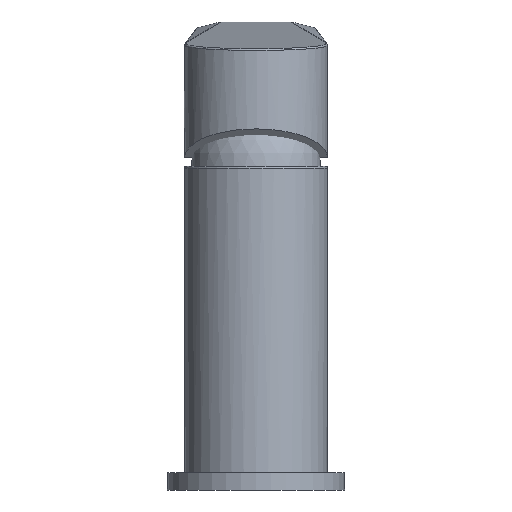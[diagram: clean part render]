
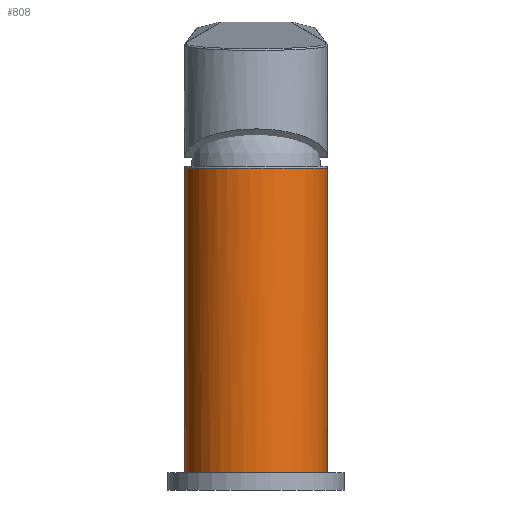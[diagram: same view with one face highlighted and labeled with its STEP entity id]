
A CAD part, left-side view. The second image highlights one B-rep face of the part: STEP entity #808.
In plain terms, the highlighted cylindrical face has radius 21 mm (diameter 42 mm), a full revolution.
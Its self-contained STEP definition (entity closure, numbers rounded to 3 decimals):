
#808=ADVANCED_FACE('',(#1614),#1519,.T.);
#1519=CYLINDRICAL_SURFACE('',#12965,21.);
#1614=FACE_OUTER_BOUND('',#2304,.T.);
#2304=EDGE_LOOP('',(#3509,#3510,#3511,#3512,#3513,#3514,#3515,#3516,#3517,
#3518));
#3079=B_SPLINE_CURVE_WITH_KNOTS('',3,(#17382,#17383,#17384,#17385,#17386,
#17387,#17388,#17389),.UNSPECIFIED.,.F.,.F.,(4,2,2,4),(0.,0.25,0.5,1.),
 .UNSPECIFIED.);
#3080=B_SPLINE_CURVE_WITH_KNOTS('',3,(#17397,#17398,#17399,#17400,#17401,
#17402,#17403,#17404),.UNSPECIFIED.,.F.,.F.,(4,2,2,4),(0.,0.5,
0.75,1.),.UNSPECIFIED.);
#3171=ELLIPSE('',#12962,21.058,21.);
#3172=ELLIPSE('',#12964,21.058,21.);
#3214=CIRCLE('',#12961,21.);
#3215=CIRCLE('',#12963,21.);
#3509=ORIENTED_EDGE('',*,*,#8348,.T.);
#3510=ORIENTED_EDGE('',*,*,#8349,.T.);
#3511=ORIENTED_EDGE('',*,*,#8348,.F.);
#3512=ORIENTED_EDGE('',*,*,#8350,.T.);
#3513=ORIENTED_EDGE('',*,*,#8351,.T.);
#3514=ORIENTED_EDGE('',*,*,#8352,.T.);
#3515=ORIENTED_EDGE('',*,*,#8353,.T.);
#3516=ORIENTED_EDGE('',*,*,#8354,.F.);
#3517=ORIENTED_EDGE('',*,*,#8355,.T.);
#3518=ORIENTED_EDGE('',*,*,#8356,.T.);
#7157=VERTEX_POINT('',#17377);
#7158=VERTEX_POINT('',#17378);
#7159=VERTEX_POINT('',#17381);
#7160=VERTEX_POINT('',#17390);
#7161=VERTEX_POINT('',#17392);
#7162=VERTEX_POINT('',#17394);
#7163=VERTEX_POINT('',#17396);
#7164=VERTEX_POINT('',#17405);
#8348=EDGE_CURVE('',#7157,#7158,#10172,.T.);
#8349=EDGE_CURVE('',#7158,#7158,#3214,.T.);
#8350=EDGE_CURVE('',#7157,#7159,#3171,.T.);
#8351=EDGE_CURVE('',#7159,#7160,#3079,.T.);
#8352=EDGE_CURVE('',#7160,#7161,#10173,.T.);
#8353=EDGE_CURVE('',#7161,#7162,#3215,.T.);
#8354=EDGE_CURVE('',#7163,#7162,#10174,.T.);
#8355=EDGE_CURVE('',#7163,#7164,#3080,.T.);
#8356=EDGE_CURVE('',#7164,#7157,#3172,.T.);
#10172=LINE('',#17376,#11566);
#10173=LINE('',#17391,#11567);
#10174=LINE('',#17395,#11568);
#11566=VECTOR('',#13969,1.);
#11567=VECTOR('',#13974,1.);
#11568=VECTOR('',#13977,1.);
#12961=AXIS2_PLACEMENT_3D('',#17379,#13970,#13971);
#12962=AXIS2_PLACEMENT_3D('',#17380,#13972,#13973);
#12963=AXIS2_PLACEMENT_3D('',#17393,#13975,#13976);
#12964=AXIS2_PLACEMENT_3D('',#17406,#13978,#13979);
#12965=AXIS2_PLACEMENT_3D('',#17407,#13980,#13981);
#13969=DIRECTION('',(0.,0.,-1.));
#13970=DIRECTION('',(0.,0.,1.));
#13971=DIRECTION('',(-1.,0.,0.));
#13972=DIRECTION('',(0.074,0.,-0.997));
#13973=DIRECTION('',(0.997,0.,0.074));
#13974=DIRECTION('',(0.,0.,1.));
#13975=DIRECTION('',(0.,0.,-1.));
#13976=DIRECTION('',(-1.,0.,0.));
#13977=DIRECTION('',(0.,0.,1.));
#13978=DIRECTION('',(0.074,0.,-0.997));
#13979=DIRECTION('',(0.997,0.,0.074));
#13980=DIRECTION('',(0.,0.,1.));
#13981=DIRECTION('',(1.,0.,0.));
#17376=CARTESIAN_POINT('',(21.,0.,90.));
#17377=CARTESIAN_POINT('',(21.,0.,82.421));
#17378=CARTESIAN_POINT('',(21.,0.,18.));
#17379=CARTESIAN_POINT('',(0.,0.,18.));
#17380=CARTESIAN_POINT('',(0.,0.,80.853));
#17381=CARTESIAN_POINT('',(15.096,-14.599,81.98));
#17382=CARTESIAN_POINT('',(15.096,-14.599,81.98));
#17383=CARTESIAN_POINT('',(14.013,-15.718,81.899));
#17384=CARTESIAN_POINT('',(12.847,-16.677,82.199));
#17385=CARTESIAN_POINT('',(10.404,-18.301,83.152));
#17386=CARTESIAN_POINT('',(9.177,-18.937,83.79));
#17387=CARTESIAN_POINT('',(5.429,-20.465,85.943));
#17388=CARTESIAN_POINT('',(2.879,-20.955,87.681));
#17389=CARTESIAN_POINT('',(0.353,-20.997,89.384));
#17390=CARTESIAN_POINT('',(0.353,-20.997,89.384));
#17391=CARTESIAN_POINT('',(0.353,-20.997,-16.5));
#17392=CARTESIAN_POINT('',(0.353,-20.997,107.5));
#17393=CARTESIAN_POINT('',(0.,0.,107.5));
#17394=CARTESIAN_POINT('',(0.353,20.997,107.5));
#17395=CARTESIAN_POINT('',(0.353,20.997,-16.5));
#17396=CARTESIAN_POINT('',(0.353,20.997,89.384));
#17397=CARTESIAN_POINT('',(0.353,20.997,89.384));
#17398=CARTESIAN_POINT('',(2.879,20.955,87.681));
#17399=CARTESIAN_POINT('',(5.429,20.465,85.943));
#17400=CARTESIAN_POINT('',(9.177,18.937,83.79));
#17401=CARTESIAN_POINT('',(10.404,18.301,83.152));
#17402=CARTESIAN_POINT('',(12.847,16.677,82.199));
#17403=CARTESIAN_POINT('',(14.013,15.718,81.899));
#17404=CARTESIAN_POINT('',(15.096,14.599,81.98));
#17405=CARTESIAN_POINT('',(15.096,14.599,81.98));
#17406=CARTESIAN_POINT('',(0.,0.,80.853));
#17407=CARTESIAN_POINT('',(0.,0.,0.));
